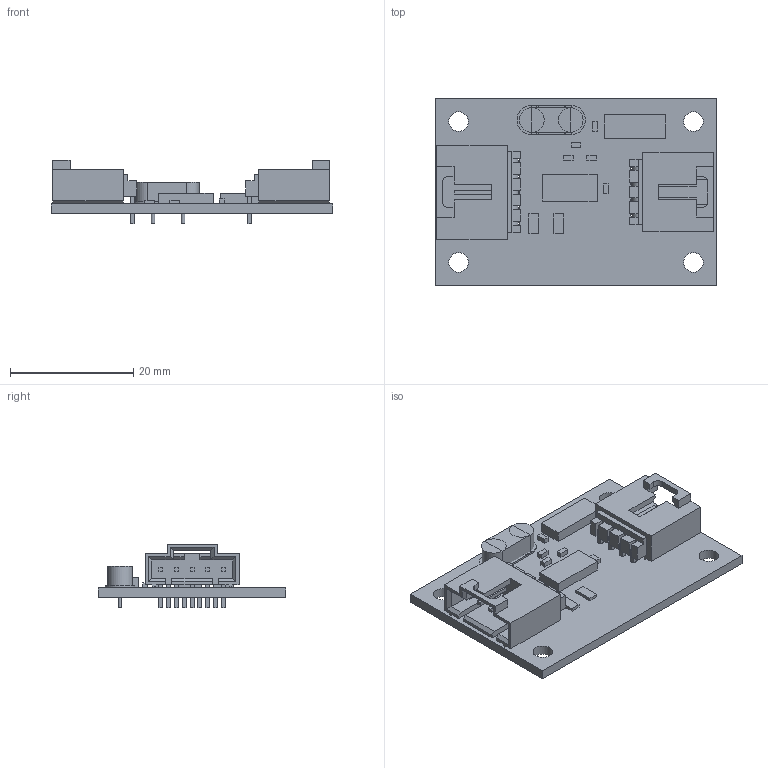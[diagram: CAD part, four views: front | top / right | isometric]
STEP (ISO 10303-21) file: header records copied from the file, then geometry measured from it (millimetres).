
FILE_DESCRIPTION(('Open CASCADE Model'),'2;1');
FILE_NAME('Open CASCADE Shape Model','2010-10-27T13:02:34',('Author'),( 'Open CASCADE'),'Open CASCADE STEP processor 6.2','Open CASCADE 6.2' ,'Unknown');
FILE_SCHEMA(('AUTOMOTIVE_DESIGN { 1 0 10303 214 1 1 1 1 }'));
Length unit declared in the file: millimetre
Products named in the file (40): PCB; Board; U1; 585595888; Extruded; C1; 489473088; R2; 489472704; U2; 489472576; C4; C3; 489472960; R3; Y1; 522166352; Cylinder; 727651008; 489461568; 727653024; 489481280; R1; C2; J1; 705530108; Open CASCADE STEP translator 6.2 209.12.1.1; Open CASCADE STEP translator 6.2 209.12.1.2; J2; 705530004; Open CASCADE STEP translator 6.2 209.13.1.1; Open CASCADE STEP translator 6.2 209.13.1.2
Assembly tree (46 placements, depth 4):
  PCB
    Board
    U1
      585595888
        Extruded
    C1
      489473088
        Extruded
    R2
      489472704
        Extruded
    U2
      489472576
        Extruded
    C4
      489473088
        Extruded
    C3
      489472960
        Extruded
    R3
      489472704
        Extruded
    Y1
      522166352  x2
        Cylinder
      727651008  x2
        Cylinder
      489461568
        Extruded
      727653024  x2
        Cylinder
      489481280
        Extruded
    R1
      489472960
        Extruded
    C2
      489472960
        Extruded
    J1
      705530108
        Open CASCADE STEP translator 6.2 209.12.1.1
        Open CASCADE STEP translator 6.2 209.12.1.2
    J2
      705530004
        Open CASCADE STEP translator 6.2 209.13.1.1
        Open CASCADE STEP translator 6.2 209.13.1.2
Bounding box: 45.72 x 30.48 x 10.29 mm (x, y, z)
Volume: 3590 mm3; surface area: 5906.9 mm2
Topology: 20 solids, 20 shells, 399 faces, 1024 edges, 696 vertices
Faces by surface type: plane 356, cylinder 43
Full cylindrical faces by diameter (mm): 0.6 x2, 0.711 x2, 0.965 x9, 3.175 x4, 4 x2, 4.8 x2
Entity records: 24353 total; most frequent: CARTESIAN_POINT 4342, DIRECTION 3629, LINE 2581, VECTOR 2581, ORIENTED_EDGE 1886, PCURVE 1886, DEFINITIONAL_REPRESENTATION 1886, EDGE_CURVE 943
